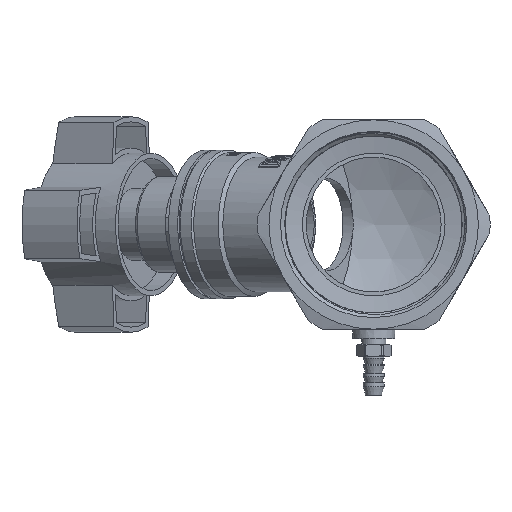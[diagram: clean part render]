
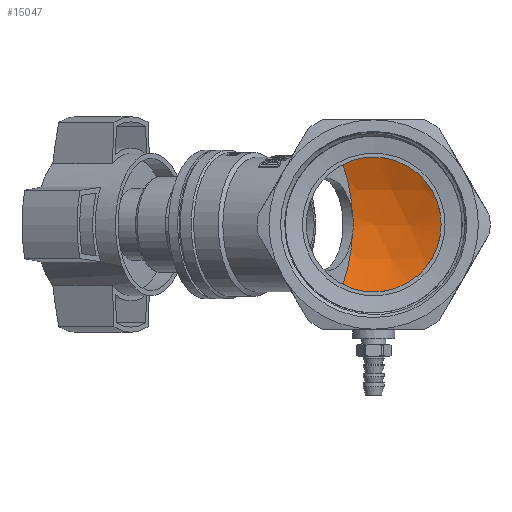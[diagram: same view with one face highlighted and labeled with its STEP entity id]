
A CAD part, left-side view. The second image highlights one B-rep face of the part: STEP entity #15047.
In plain terms, the highlighted spherical face has radius 49.806 mm.
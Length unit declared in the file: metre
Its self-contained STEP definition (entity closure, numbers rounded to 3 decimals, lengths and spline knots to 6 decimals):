
#121=SPHERICAL_SURFACE('',#16500,0.049806);
#827=B_SPLINE_CURVE_WITH_KNOTS('',3,(#40590,#40591,#40592,#40593),
 .UNSPECIFIED.,.F.,.F.,(4,4),(4.647425,4.927942),
 .UNSPECIFIED.);
#828=B_SPLINE_CURVE_WITH_KNOTS('',3,(#40598,#40599,#40600,#40601),
 .UNSPECIFIED.,.F.,.F.,(4,4),(4.927942,5.208459),
 .UNSPECIFIED.);
#2086=FACE_OUTER_BOUND('',#3046,.T.);
#3046=EDGE_LOOP('',(#12751,#12752,#12753,#12754,#12755,#12756));
#5585=CIRCLE('',#16496,0.02175);
#5586=CIRCLE('',#16499,0.02175);
#5587=CIRCLE('',#16501,0.036551);
#5588=CIRCLE('',#16502,0.036551);
#6848=VERTEX_POINT('',#40587);
#6849=VERTEX_POINT('',#40589);
#6851=VERTEX_POINT('',#40597);
#6861=VERTEX_POINT('',#40646);
#6862=VERTEX_POINT('',#40648);
#6863=VERTEX_POINT('',#40651);
#8907=EDGE_CURVE('',#6848,#6849,#827,.T.);
#8910=EDGE_CURVE('',#6849,#6851,#828,.T.);
#8926=EDGE_CURVE('',#6861,#6862,#5585,.T.);
#8929=EDGE_CURVE('',#6863,#6861,#5586,.T.);
#8930=EDGE_CURVE('',#6862,#6848,#5587,.T.);
#8931=EDGE_CURVE('',#6851,#6863,#5588,.T.);
#12751=ORIENTED_EDGE('',*,*,#8907,.F.);
#12752=ORIENTED_EDGE('',*,*,#8930,.F.);
#12753=ORIENTED_EDGE('',*,*,#8926,.F.);
#12754=ORIENTED_EDGE('',*,*,#8929,.F.);
#12755=ORIENTED_EDGE('',*,*,#8931,.F.);
#12756=ORIENTED_EDGE('',*,*,#8910,.F.);
#15047=ADVANCED_FACE('',(#2086),#121,.F.);
#16496=AXIS2_PLACEMENT_3D('',#40649,#19830,#19831);
#16499=AXIS2_PLACEMENT_3D('',#40653,#19836,#19837);
#16500=AXIS2_PLACEMENT_3D('',#40654,#19838,#19839);
#16501=AXIS2_PLACEMENT_3D('',#40655,#19840,#19841);
#16502=AXIS2_PLACEMENT_3D('',#40656,#19842,#19843);
#19830=DIRECTION('center_axis',(1.,0.,0.));
#19831=DIRECTION('ref_axis',(0.,1.,0.));
#19836=DIRECTION('center_axis',(1.,0.,0.));
#19837=DIRECTION('ref_axis',(0.,1.,0.));
#19838=DIRECTION('center_axis',(0.,0.,-1.));
#19839=DIRECTION('ref_axis',(0.,-1.,0.));
#19840=DIRECTION('center_axis',(-0.574,-0.819,0.));
#19841=DIRECTION('ref_axis',(0.819,-0.574,0.));
#19842=DIRECTION('center_axis',(-0.574,-0.819,0.));
#19843=DIRECTION('ref_axis',(0.819,-0.574,0.));
#40587=CARTESIAN_POINT('',(0.008951,0.006813,-0.002831));
#40589=CARTESIAN_POINT('',(0.009075,0.00649,0.));
#40590=CARTESIAN_POINT('Ctrl Pts',(0.008951,0.006813,
-0.002831));
#40591=CARTESIAN_POINT('Ctrl Pts',(0.009034,0.006597,
-0.001891));
#40592=CARTESIAN_POINT('Ctrl Pts',(0.009075,0.00649,
-0.000935));
#40593=CARTESIAN_POINT('Ctrl Pts',(0.009075,0.00649,
0.));
#40597=CARTESIAN_POINT('',(0.008951,0.006813,0.002831));
#40598=CARTESIAN_POINT('Ctrl Pts',(0.009075,0.00649,
0.));
#40599=CARTESIAN_POINT('Ctrl Pts',(0.009075,0.00649,
0.000935));
#40600=CARTESIAN_POINT('Ctrl Pts',(0.009034,0.006597,
0.001891));
#40601=CARTESIAN_POINT('Ctrl Pts',(0.008951,0.006813,
0.002831));
#40646=CARTESIAN_POINT('',(0.0045,-0.02175,0.));
#40648=CARTESIAN_POINT('',(0.0045,0.009929,-0.019351));
#40649=CARTESIAN_POINT('Origin',(0.0045,0.,0.));
#40651=CARTESIAN_POINT('',(0.0045,0.009929,0.019351));
#40653=CARTESIAN_POINT('Origin',(0.0045,0.,0.));
#40654=CARTESIAN_POINT('Origin',(-0.040306,0.,0.));
#40655=CARTESIAN_POINT('Origin',(-0.0209,0.027715,
0.));
#40656=CARTESIAN_POINT('Origin',(-0.0209,0.027715,
0.));
